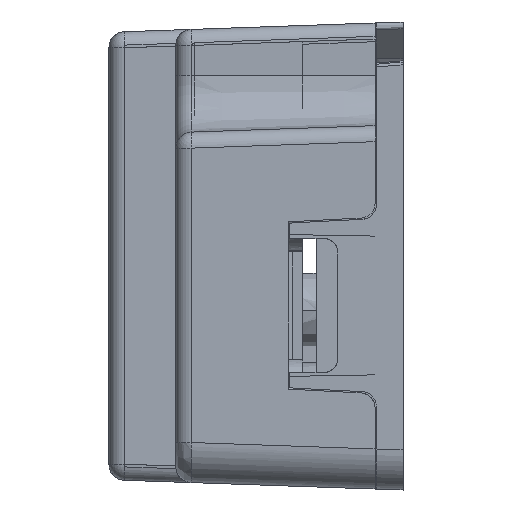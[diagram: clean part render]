
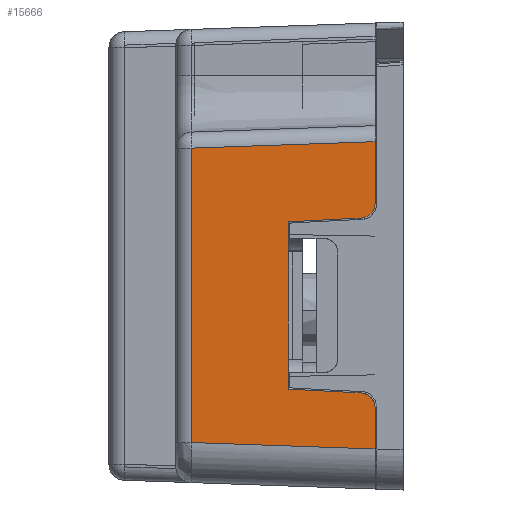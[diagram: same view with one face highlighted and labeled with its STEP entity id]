
A CAD part, left-side view. The second image highlights one B-rep face of the part: STEP entity #15666.
In plain terms, the highlighted planar face has unit normal (-0.999, 0.035, 0) as drawn and (0.999, 0.035, 0) by its records, which use the part's own axes.
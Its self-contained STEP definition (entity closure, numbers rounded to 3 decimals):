
#12902=CARTESIAN_POINT('',(164.927,2.1,-8.547));
#12960=CARTESIAN_POINT('',(164.927,2.1,14.428));
#13152=CARTESIAN_POINT('',(164.927,2.1,11.339));
#13153=CARTESIAN_POINT('',(164.927,2.1,11.165));
#13154=CARTESIAN_POINT('',(164.924,2.173,10.886));
#13155=CARTESIAN_POINT('',(164.917,2.386,10.567));
#13156=CARTESIAN_POINT('',(164.906,2.694,10.337));
#13157=CARTESIAN_POINT('',(164.896,2.969,10.249));
#13158=CARTESIAN_POINT('',(164.89,3.142,10.24));
#13160=DIRECTION('',(0.,0.,1.));
#13161=VECTOR('',#13160,3.09);
#13162=CARTESIAN_POINT('',(164.927,2.1,11.339));
#13163=LINE('',#13162,#13161);
#13164=DIRECTION('',(0.035,-0.999,0.035));
#13165=VECTOR('',#13164,13.759);
#13166=CARTESIAN_POINT('',(164.447,15.842,13.949));
#13167=LINE('',#13166,#13165);
#13168=DIRECTION('',(0.,0.,1.));
#13169=VECTOR('',#13168,22.016);
#13170=CARTESIAN_POINT('',(164.447,15.842,
-8.067));
#13171=LINE('',#13170,#13169);
#13172=DIRECTION('',(0.035,-0.999,-0.035));
#13173=VECTOR('',#13172,13.759);
#13174=CARTESIAN_POINT('',(164.447,15.842,
-8.067));
#13175=LINE('',#13174,#13173);
#13176=DIRECTION('',(0.,0.,1.));
#13177=VECTOR('',#13176,4.608);
#13178=CARTESIAN_POINT('',(164.927,2.1,-8.547));
#13179=LINE('',#13178,#13177);
#13180=CARTESIAN_POINT('',(164.89,3.142,
-2.84));
#13181=CARTESIAN_POINT('',(164.896,2.969,
-2.849));
#13182=CARTESIAN_POINT('',(164.906,2.694,
-2.937));
#13183=CARTESIAN_POINT('',(164.917,2.386,
-3.167));
#13184=CARTESIAN_POINT('',(164.924,2.173,
-3.486));
#13185=CARTESIAN_POINT('',(164.927,2.1,-3.765));
#13186=CARTESIAN_POINT('',(164.927,2.1,-3.939));
#13188=DIRECTION('',(-0.035,0.998,0.052));
#13189=VECTOR('',#13188,5.468);
#13190=CARTESIAN_POINT('',(164.89,3.142,
-2.84));
#13191=LINE('',#13190,#13189);
#13192=DIRECTION('',(0.,0.,1.));
#13193=VECTOR('',#13192,12.508);
#13194=CARTESIAN_POINT('',(164.7,8.6,-2.554));
#13195=LINE('',#13194,#13193);
#13196=DIRECTION('',(0.035,-0.998,0.052));
#13197=VECTOR('',#13196,5.468);
#13198=CARTESIAN_POINT('',(164.7,8.6,9.954));
#13199=LINE('',#13198,#13197);
#13760=CARTESIAN_POINT('',(164.447,15.842,
-8.067));
#13761=CARTESIAN_POINT('',(164.447,15.842,13.949));
#13762=VERTEX_POINT('',#13760);
#13763=VERTEX_POINT('',#13761);
#13856=VERTEX_POINT('',#12960);
#13859=VERTEX_POINT('',#12902);
#13869=CARTESIAN_POINT('',(164.7,8.6,-2.554));
#13870=CARTESIAN_POINT('',(164.7,8.6,9.954));
#13871=VERTEX_POINT('',#13869);
#13872=VERTEX_POINT('',#13870);
#13882=VERTEX_POINT('',#13152);
#13883=VERTEX_POINT('',#13158);
#13889=CARTESIAN_POINT('',(164.89,3.142,
-2.84));
#13890=VERTEX_POINT('',#13889);
#13891=VERTEX_POINT('',#13186);
#15643=CARTESIAN_POINT('',(164.93,2.,18.149));
#15644=DIRECTION('',(0.999,0.035,0.));
#15645=DIRECTION('',(0.,0.,1.));
#15646=AXIS2_PLACEMENT_3D('',#15643,#15644,#15645);
#15647=PLANE('',#15646);
#15648=ORIENTED_EDGE('',*,*,#15627,.F.);
#15649=ORIENTED_EDGE('',*,*,#15281,.T.);
#15651=ORIENTED_EDGE('',*,*,#15650,.F.);
#15653=ORIENTED_EDGE('',*,*,#15652,.F.);
#15655=ORIENTED_EDGE('',*,*,#15654,.T.);
#15656=ORIENTED_EDGE('',*,*,#15227,.T.);
#15657=ORIENTED_EDGE('',*,*,#15302,.F.);
#15659=ORIENTED_EDGE('',*,*,#15658,.T.);
#15661=ORIENTED_EDGE('',*,*,#15660,.T.);
#15663=ORIENTED_EDGE('',*,*,#15662,.T.);
#15664=EDGE_LOOP('',(#15648,#15649,#15651,#15653,#15655,#15656,#15657,#15659,
#15661,#15663));
#15665=FACE_OUTER_BOUND('',#15664,.F.);
#13159=B_SPLINE_CURVE_WITH_KNOTS('',3,(#13152,#13153,#13154,#13155,#13156,
#13157,#13158),.UNSPECIFIED.,.F.,.F.,(4,1,1,1,4),(0.,0.25,0.5,0.75,
1.),.UNSPECIFIED.);
#13187=B_SPLINE_CURVE_WITH_KNOTS('',3,(#13180,#13181,#13182,#13183,#13184,
#13185,#13186),.UNSPECIFIED.,.F.,.F.,(4,1,1,1,4),(0.,0.25,0.5,0.75,
1.),.UNSPECIFIED.);
#15227=EDGE_CURVE('',#13859,#13891,#13179,.T.);
#15281=EDGE_CURVE('',#13882,#13856,#13163,.T.);
#15302=EDGE_CURVE('',#13890,#13891,#13187,.T.);
#15627=EDGE_CURVE('',#13882,#13883,#13159,.T.);
#15650=EDGE_CURVE('',#13763,#13856,#13167,.T.);
#15652=EDGE_CURVE('',#13762,#13763,#13171,.T.);
#15654=EDGE_CURVE('',#13762,#13859,#13175,.T.);
#15658=EDGE_CURVE('',#13890,#13871,#13191,.T.);
#15660=EDGE_CURVE('',#13871,#13872,#13195,.T.);
#15662=EDGE_CURVE('',#13872,#13883,#13199,.T.);
#15666=ADVANCED_FACE('',(#15665),#15647,.T.);
